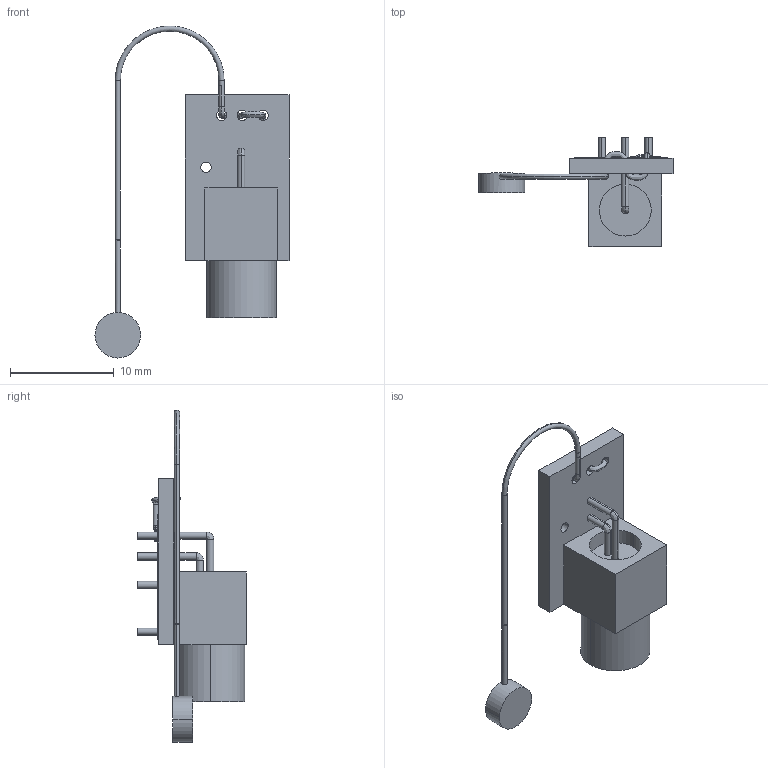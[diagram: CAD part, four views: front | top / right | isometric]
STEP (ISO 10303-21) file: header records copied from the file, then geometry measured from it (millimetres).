
FILE_DESCRIPTION((''),'2;1');
FILE_NAME('0000058221_SW0001','2013-10-18T',('11000065'),(''),'PRO/ENGINEER BY PARAMETRIC TECHNOLOGY CORPORATION, 2013230','PRO/ENGINEER BY PARAMETRIC TECHNOLOGY CORPORATION, 2013230','');
FILE_SCHEMA(('AUTOMOTIVE_DESIGN { 1 0 10303 214 1 1 1 1 }'));
Length unit declared in the file: millimetre
Products named in the file (1): 0000058221_SW0001
Bounding box: 18.7 x 10.5 x 32 mm (x, y, z)
Volume: 752.7 mm3; surface area: 975.5 mm2
Topology: 2 solids, 2 shells, 141 faces, 351 edges, 221 vertices
Faces by surface type: cylinder 72, plane 43, bspline 20, extrusion 4, torus 2
Entity records: 8194 total; most frequent: CARTESIAN_POINT 2966, ORIENTED_EDGE 694, DIRECTION 668, EDGE_CURVE 347, AXIS2_PLACEMENT_3D 257, VERTEX_POINT 221, FILL_AREA_STYLE_COLOUR 205, FILL_AREA_STYLE 205
